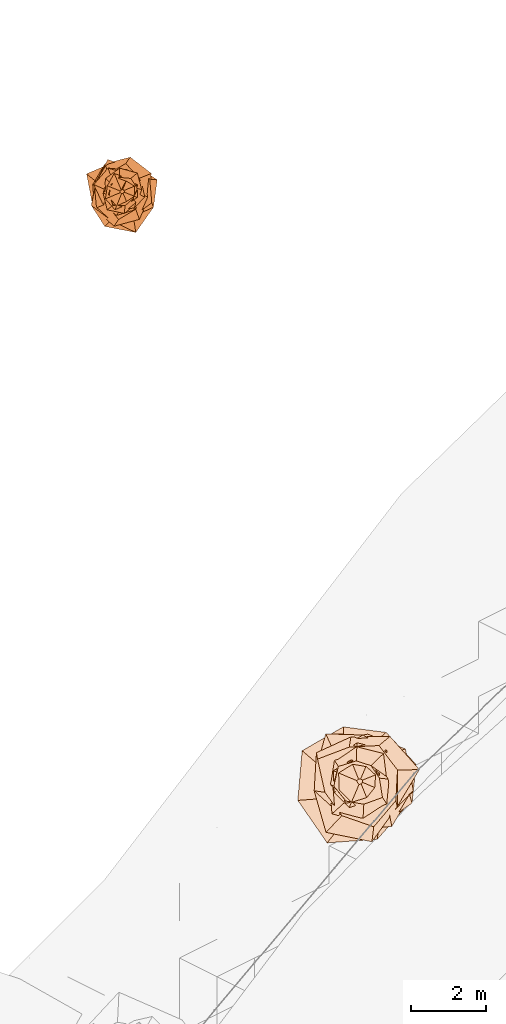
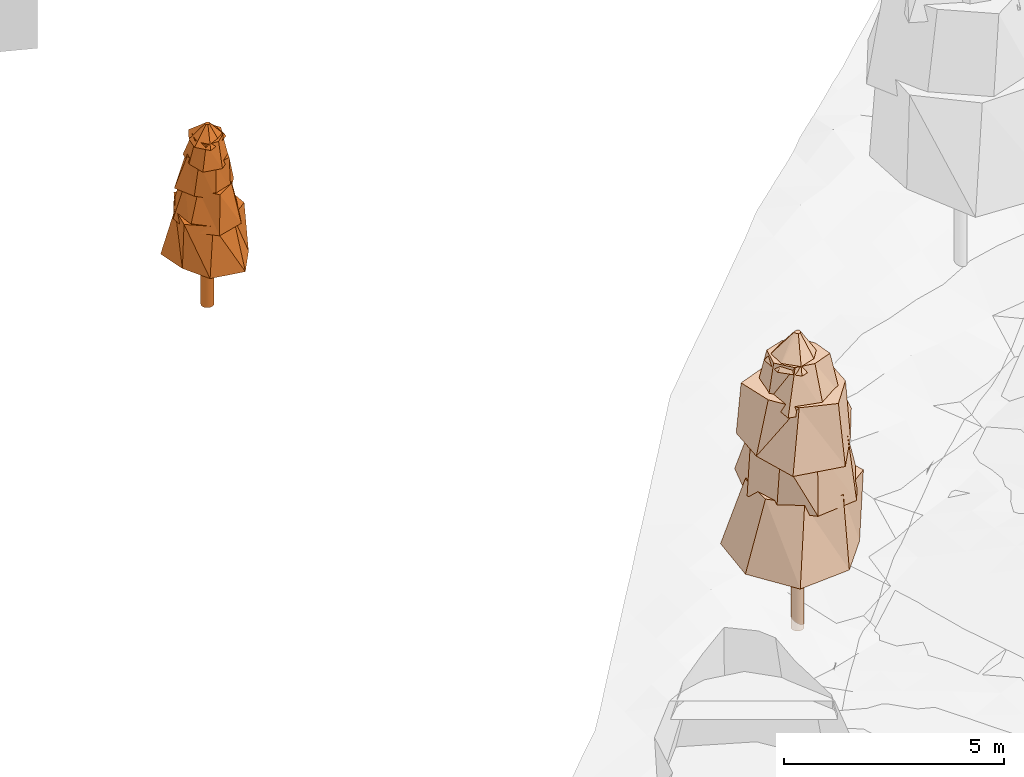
# Not in any storey, part 24 of 88: 2 geographic elements.
"""IFC4 model written with IfcOpenShell, lengths in metres."""

import ifcopenshell
import ifcopenshell.guid

model = None  # the IFC model being written
_history = None  # IfcOwnerHistory: only IFC2X3 demands one
_inside = {}  # id of a spatial element -> (the spatial element, [elements in it])
_under = {}  # id of a project, library or spatial element -> (it, [spatial elements below it])
_declared = {}  # id of a project -> (the project, [libraries it declares])
_typed = {}  # id of a type object -> (the type object, [elements of that type])
_made_of = {}  # id of a material, layer set ... -> (it, [elements and type objects made of it])


def new_model(schema):
    """Start an empty IFC model of exactly this schema.

    Asked for "IFC4X3", IfcOpenShell would pick the latest addendum, in which some entities
    have other attributes; the version numbers below select the first issue.
    IFC2X3 requires an IfcOwnerHistory on every rooted entity: one is made here for all.
    """
    global model, _history
    if schema == "IFC4X3":
        model = ifcopenshell.file(schema_version=(4, 3, 0, 0))
    else:
        model = ifcopenshell.file(schema=schema)
    _inside.clear()
    _under.clear()
    _declared.clear()
    _typed.clear()
    _made_of.clear()
    _history = None
    if model.schema == "IFC2X3":
        org = make("IfcOrganization", Name="unknown")
        user = make(
            "IfcPersonAndOrganization",
            ThePerson=make("IfcPerson", FamilyName="unknown"),
            TheOrganization=org,
        )
        app = make(
            "IfcApplication",
            ApplicationDeveloper=org,
            Version="unknown",
            ApplicationFullName="unknown",
            ApplicationIdentifier="unknown",
        )
        _history = make(
            "IfcOwnerHistory",
            OwningUser=user,
            OwningApplication=app,
            ChangeAction="ADDED",
            CreationDate=0,
        )
    return model


def make(cls, **values):
    """One entity of the class cls with the attributes given. An attribute that is None is left unset."""
    return model.create_entity(
        cls, **{name: value for name, value in values.items() if value is not None}
    )


def rooted(cls, **values):
    """An entity with a GlobalId (a new one), such as an element, a storey or a relation."""
    return make(cls, GlobalId=ifcopenshell.guid.new(), OwnerHistory=_history, **values)


def si_unit(unit_type, name, prefix=None):
    """IfcSIUnit, for example si_unit("LENGTHUNIT", "METRE", prefix="MILLI")."""
    return make("IfcSIUnit", UnitType=unit_type, Prefix=prefix, Name=name)


def assignment(units):
    """IfcUnitAssignment: the units of a project."""
    return None if units is None else make("IfcUnitAssignment", Units=units)


def point(xyz):
    """IfcCartesianPoint."""
    return None if xyz is None else make("IfcCartesianPoint", Coordinates=xyz)


def direction(xyz):
    """IfcDirection."""
    return None if xyz is None else make("IfcDirection", DirectionRatios=xyz)


def frame(location, z_axis=None, x_axis=None):
    """IfcAxis2Placement3D, a coordinate frame: its origin and axes. An axis left out is left unset."""
    return make(
        "IfcAxis2Placement3D",
        Location=point(location),
        Axis=direction(z_axis),
        RefDirection=direction(x_axis),
    )


def origin_with_axes():
    """The frame at (0, 0, 0) with the z axis (0, 0, 1) and the x axis (1, 0, 0) written out."""
    return frame((0.0, 0.0, 0.0), z_axis=(0.0, 0.0, 1.0), x_axis=(1.0, 0.0, 0.0))


def place(relative_to, where):
    """IfcLocalPlacement: puts the frame where relative to a parent placement (None: the world)."""
    return make(
        "IfcLocalPlacement", PlacementRelTo=relative_to, RelativePlacement=where
    )


def context(
    kind, dimensions, precision=None, world=None, true_north=None, identifier=None
):
    """IfcGeometricRepresentationContext, for example the 3D "Model" context."""
    return make(
        "IfcGeometricRepresentationContext",
        ContextIdentifier=identifier,
        ContextType=kind,
        CoordinateSpaceDimension=dimensions,
        Precision=precision,
        WorldCoordinateSystem=world,
        TrueNorth=true_north,
    )


def subcontext(parent, identifier, kind, view, scale=None):
    """IfcGeometricRepresentationSubContext, for example "Body" below "Model"."""
    return make(
        "IfcGeometricRepresentationSubContext",
        ContextIdentifier=identifier,
        ContextType=kind,
        ParentContext=parent,
        TargetScale=scale,
        TargetView=view,
    )


def project(units=None, contexts=None):
    """IfcProject with its units and contexts."""
    return rooted(
        "IfcProject",
        Name="project",
        RepresentationContexts=contexts,
        UnitsInContext=assignment(units),
    )


def spatial(cls, under=None, at=None, **own):
    """A site, building, storey or space (cls), placed at a placement, below another one or the project."""
    s = rooted(cls, ObjectPlacement=at, **own)
    if under is not None:
        _under.setdefault(under.id(), (under, []))[1].append(s)
    return s


def profile(cls, at=None, kind="AREA", **sizes):
    """A parametric profile (cls). Its sizes go by their IFC names, for example OverallWidth=200.0."""
    return make(cls, ProfileType=kind, Position=at, **sizes)


def circle(**sizes):
    """IfcCircleProfileDef."""
    return profile("IfcCircleProfileDef", **sizes)


def extrude(swept, where, along, depth):
    """IfcExtrudedAreaSolid: the profile swept, set in the frame where, extruded along a direction by depth."""
    return make(
        "IfcExtrudedAreaSolid",
        SweptArea=swept,
        Position=where,
        ExtrudedDirection=direction(along),
        Depth=depth,
    )


def faces_of(points, faces, orient=None, outer=None):
    """IfcFace entities. A face is a list of loops; a loop is a list of indices into points, from 0.

    orient and outer hold one flag for each loop. By default every Orientation is true, the
    first loop of a face is its IfcFaceOuterBound and the others are IfcFaceBound.
    """
    made = []
    for i, loops in enumerate(faces):
        bounds = []
        for j, loop in enumerate(loops):
            is_outer = j == 0 if outer is None else outer[i][j]
            bounds.append(
                make(
                    "IfcFaceOuterBound" if is_outer else "IfcFaceBound",
                    Bound=make("IfcPolyLoop", Polygon=[points[k] for k in loop]),
                    Orientation=True if orient is None else orient[i][j],
                )
            )
        made.append(make("IfcFace", Bounds=bounds))
    return made


def faceted_brep(points, faces, orient=None, outer=None, voids=None):
    """IfcFacetedBrep: a solid bounded by flat faces; with voids (closed shells), ...WithVoids."""
    shared = [point(p) for p in points]
    hull = make("IfcClosedShell", CfsFaces=faces_of(shared, faces, orient, outer))
    if voids is None:
        return make("IfcFacetedBrep", Outer=hull)
    return make(
        "IfcFacetedBrepWithVoids",
        Outer=hull,
        Voids=[
            make(cls, CfsFaces=faces_of(shared, fs, o, b)) for cls, fs, o, b in voids
        ],
    )


def shape(context_of_items, identifier, shape_type, items):
    """IfcShapeRepresentation: the items that make up one representation, for example the "Body"."""
    return make(
        "IfcShapeRepresentation",
        ContextOfItems=context_of_items,
        RepresentationIdentifier=identifier,
        RepresentationType=shape_type,
        Items=items,
    )


def made_of(thing, what):
    """Note that an element or type object is made of a material, layer set ...; save() writes the relation."""
    if what is not None:
        _made_of.setdefault(what.id(), (what, []))[1].append(thing)
    return thing


def element(
    cls,
    number,
    at=None,
    inside=None,
    cuts=None,
    type_object=None,
    material=None,
    context=None,
    identifier="Body",
    shape_type=None,
    held_by="IfcProductDefinitionShape",
    body=None,
    shapes=None,
    **own,
):
    """One element of the class cls, such as IfcWall. Its Tag is "e" and its number.

    at: its placement. inside: the storey or other place that contains it. cuts: it is an
    opening in that element (IfcRelVoidsElement). A single representation is given by context,
    identifier, shape_type and body (its items); several are given by shapes. held_by: the class
    of the entity that holds the representations. save() writes the other relations.
    """
    e = rooted(cls, Tag="e%d" % number, ObjectPlacement=at, **own)
    if body is not None:
        shapes = [shape(context, identifier, shape_type, body)]
    if shapes is not None:
        e.Representation = make(held_by, Representations=shapes)
    if inside is not None:
        _inside.setdefault(inside.id(), (inside, []))[1].append(e)
    if cuts is not None:
        rooted(
            "IfcRelVoidsElement", RelatingBuildingElement=cuts, RelatedOpeningElement=e
        )
    if type_object is not None:
        _typed.setdefault(type_object.id(), (type_object, []))[1].append(e)
    return made_of(e, material)


def aggregate(whole, parts):
    """IfcRelAggregates: a whole, such as a stair, and the parts it consists of."""
    return rooted("IfcRelAggregates", RelatingObject=whole, RelatedObjects=parts)


def save(model, path):
    """Write the relations noted so far, then the file.

    IfcRelAggregates (storeys below a building ...), IfcRelContainedInSpatialStructure (elements
    in a storey), IfcRelDefinesByType, IfcRelAssociatesMaterial and IfcRelDeclares: one each for
    every whole, place, type object, material and project.
    """
    for whole, parts in _under.values():
        aggregate(whole, parts)
    for where, things in _inside.values():
        rooted(
            "IfcRelContainedInSpatialStructure",
            RelatedElements=things,
            RelatingStructure=where,
        )
    for kind, things in _typed.values():
        rooted("IfcRelDefinesByType", RelatedObjects=things, RelatingType=kind)
    for what, things in _made_of.values():
        rooted("IfcRelAssociatesMaterial", RelatedObjects=things, RelatingMaterial=what)
    for by, libraries in _declared.values():
        rooted("IfcRelDeclares", RelatingContext=by, RelatedDefinitions=libraries)
    model.write(path)


model = new_model("IFC4")

# Units and contexts
model_context = context("Model", 3, precision=1e-05, world=origin_with_axes())
body_context = subcontext(model_context, "Body", "Model", "MODEL_VIEW")
ifc_project = project(units=[si_unit("LENGTHUNIT", "METRE"), si_unit("AREAUNIT", "SQUARE_METRE"), si_unit("VOLUMEUNIT", "CUBIC_METRE"), si_unit("PLANEANGLEUNIT", "RADIAN")], contexts=[model_context])

# Sites
site_1_placement = place(None, origin_with_axes())
site_1 = spatial("IfcSite", under=ifc_project, at=site_1_placement, Name="CH907857693633", CompositionType="ELEMENT")
site_2_placement = place(None, origin_with_axes())
site_2 = spatial("IfcSite", under=site_1, at=site_2_placement, Name="Vegetation", CompositionType="ELEMENT")

# Geographic element
geographic_element_1_placement = place(None, frame((48.4650000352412, 46.4950034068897, 2.69342041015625), z_axis=(0.0, 0.0, 1.0), x_axis=(1.0, 0.0, 0.0)))
element("IfcGeographicElement", 1, at=geographic_element_1_placement, inside=site_2, Name="Tree_einzelbaum", ObjectType="VEGETATION", PredefinedType="USERDEFINED", context=body_context, shape_type="Brep", body=[
    extrude(circle(Radius=0.15), origin_with_axes(), (0.0, 0.0, 1.0), 1.42901684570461),
    faceted_brep([(0.83896451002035, -0.418565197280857, 1.42901684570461), (0.36579233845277, -1.09418526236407, 1.42901684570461), (-0.465147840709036, -0.932333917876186, 1.42901684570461), (-0.809774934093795, -0.270712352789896, 1.42901684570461), (-0.951089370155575, 0.47450506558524, 1.42901684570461), (-0.257466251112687, 0.770152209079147, 1.42901684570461), (0.351931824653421, 0.705405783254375, 1.42901684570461), (0.938187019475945, 0.31364124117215, 1.42901684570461), (0.738922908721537, 0.332312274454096, 2.71586553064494), (0.242046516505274, 0.637683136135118, 2.71586553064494), (-0.385638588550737, 0.857498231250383, 2.71586553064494), (-0.694905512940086, 0.263766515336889, 2.71586553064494), (-0.824269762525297, -0.370694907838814, 2.71586553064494), (-0.292457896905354, -0.77049433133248, 2.71586553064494), (0.297418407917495, -0.661333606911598, 2.71586553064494), (0.792374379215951, -0.300762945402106, 2.71586553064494), (0.938187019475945, 0.31364124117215, 1.42901684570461), (0.351931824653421, 0.705405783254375, 1.42901684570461), (0.242046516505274, 0.637683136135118, 2.71586553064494), (0.738922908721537, 0.332312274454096, 2.71586553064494), (0.351931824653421, 0.705405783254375, 1.42901684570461), (-0.257466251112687, 0.770152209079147, 1.42901684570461), (-0.385638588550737, 0.857498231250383, 2.71586553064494), (0.242046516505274, 0.637683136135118, 2.71586553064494), (-0.257466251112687, 0.770152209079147, 1.42901684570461), (-0.951089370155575, 0.47450506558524, 1.42901684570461), (-0.694905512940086, 0.263766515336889, 2.71586553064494), (-0.385638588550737, 0.857498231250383, 2.71586553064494), (-0.951089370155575, 0.47450506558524, 1.42901684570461), (-0.809774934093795, -0.270712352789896, 1.42901684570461), (-0.824269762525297, -0.370694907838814, 2.71586553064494), (-0.694905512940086, 0.263766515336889, 2.71586553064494), (-0.809774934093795, -0.270712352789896, 1.42901684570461), (-0.465147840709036, -0.932333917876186, 1.42901684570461), (-0.292457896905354, -0.77049433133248, 2.71586553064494), (-0.824269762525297, -0.370694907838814, 2.71586553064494), (-0.465147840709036, -0.932333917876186, 1.42901684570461), (0.36579233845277, -1.09418526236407, 1.42901684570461), (0.297418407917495, -0.661333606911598, 2.71586553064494), (-0.292457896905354, -0.77049433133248, 2.71586553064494), (0.36579233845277, -1.09418526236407, 1.42901684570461), (0.83896451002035, -0.418565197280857, 1.42901684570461), (0.792374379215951, -0.300762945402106, 2.71586553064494), (0.297418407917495, -0.661333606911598, 2.71586553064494), (0.83896451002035, -0.418565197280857, 1.42901684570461), (0.938187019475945, 0.31364124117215, 1.42901684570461), (0.738922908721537, 0.332312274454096, 2.71586553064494), (0.792374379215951, -0.300762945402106, 2.71586553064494)], [[[0, 1, 2, 3, 4, 5, 6, 7]], [[8, 9, 10, 11, 12, 13, 14, 15]], [[16, 17, 18, 19]], [[20, 21, 22, 23]], [[24, 25, 26, 27]], [[28, 29, 30, 31]], [[32, 33, 34, 35]], [[36, 37, 38, 39]], [[40, 41, 42, 43]], [[44, 45, 46, 47]]]),
    faceted_brep([(0.7189050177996, -0.167786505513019, 2.52283822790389), (0.461671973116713, -0.742781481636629, 2.52283822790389), (-0.216322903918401, -0.926866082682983, 2.52283822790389), (-0.73332750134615, -0.455795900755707, 2.52283822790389), (-0.78744477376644, 0.183783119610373, 2.52283822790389), (-0.461997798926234, 0.74330570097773, 2.52283822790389), (0.214901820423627, 0.920777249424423, 2.52283822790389), (0.781042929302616, 0.485453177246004, 2.52283822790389), (0.462896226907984, 0.356380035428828, 3.50669761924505), (0.0973318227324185, 0.748634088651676, 3.50669761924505), (-0.369800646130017, 0.480328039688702, 3.50669761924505), (-0.539303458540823, 0.0701162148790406, 3.50669761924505), (-0.420712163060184, -0.323902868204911, 3.50669761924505), (-0.0970898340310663, -0.746772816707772, 3.50669761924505), (0.36253718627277, -0.470893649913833, 3.50669761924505), (0.536298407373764, -0.0697255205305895, 3.50669761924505), (0.781042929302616, 0.485453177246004, 2.52283822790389), (0.214901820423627, 0.920777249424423, 2.52283822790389), (0.0973318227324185, 0.748634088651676, 3.50669761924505), (0.462896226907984, 0.356380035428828, 3.50669761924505), (0.214901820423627, 0.920777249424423, 2.52283822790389), (-0.461997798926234, 0.74330570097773, 2.52283822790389), (-0.369800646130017, 0.480328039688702, 3.50669761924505), (0.0973318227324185, 0.748634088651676, 3.50669761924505), (-0.461997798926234, 0.74330570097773, 2.52283822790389), (-0.78744477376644, 0.183783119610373, 2.52283822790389), (-0.539303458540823, 0.0701162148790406, 3.50669761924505), (-0.369800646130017, 0.480328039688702, 3.50669761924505), (-0.78744477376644, 0.183783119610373, 2.52283822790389), (-0.73332750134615, -0.455795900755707, 2.52283822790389), (-0.420712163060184, -0.323902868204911, 3.50669761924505), (-0.539303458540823, 0.0701162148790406, 3.50669761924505), (-0.73332750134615, -0.455795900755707, 2.52283822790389), (-0.216322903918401, -0.926866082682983, 2.52283822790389), (-0.0970898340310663, -0.746772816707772, 3.50669761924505), (-0.420712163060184, -0.323902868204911, 3.50669761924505), (-0.216322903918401, -0.926866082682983, 2.52283822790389), (0.461671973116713, -0.742781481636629, 2.52283822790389), (0.36253718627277, -0.470893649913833, 3.50669761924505), (-0.0970898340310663, -0.746772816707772, 3.50669761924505), (0.461671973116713, -0.742781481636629, 2.52283822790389), (0.7189050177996, -0.167786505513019, 2.52283822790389), (0.536298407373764, -0.0697255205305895, 3.50669761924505), (0.36253718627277, -0.470893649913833, 3.50669761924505), (0.7189050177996, -0.167786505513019, 2.52283822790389), (0.781042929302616, 0.485453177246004, 2.52283822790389), (0.462896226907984, 0.356380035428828, 3.50669761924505), (0.536298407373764, -0.0697255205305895, 3.50669761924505)], [[[0, 1, 2, 3, 4, 5, 6, 7]], [[8, 9, 10, 11, 12, 13, 14, 15]], [[16, 17, 18, 19]], [[20, 21, 22, 23]], [[24, 25, 26, 27]], [[28, 29, 30, 31]], [[32, 33, 34, 35]], [[36, 37, 38, 39]], [[40, 41, 42, 43]], [[44, 45, 46, 47]]]),
    faceted_brep([(0.605950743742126, -0.149294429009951, 3.35911871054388), (0.312117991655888, -0.516199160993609, 3.35911871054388), (-0.163506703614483, -0.66363500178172, 3.35911871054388), (-0.523640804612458, -0.316617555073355, 3.35911871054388), (-0.758775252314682, 0.186947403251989, 3.35911871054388), (-0.378463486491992, 0.625925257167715, 3.35911871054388), (0.148450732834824, 0.602526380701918, 3.35911871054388), (0.504838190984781, 0.305248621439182, 3.35911871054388), (0.372006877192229, 0.279195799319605, 4.21089687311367), (0.0713229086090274, 0.500432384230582, 4.21089687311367), (-0.287282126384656, 0.382781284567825, 4.21089687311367), (-0.489290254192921, 0.0697349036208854, 4.21089687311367), (-0.383257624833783, -0.287639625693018, 4.21089687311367), (-0.0736925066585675, -0.517058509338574, 4.21089687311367), (0.324830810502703, -0.432812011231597, 4.21089687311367), (0.444584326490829, -0.0633632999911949, 4.21089687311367), (0.504838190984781, 0.305248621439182, 3.35911871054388), (0.148450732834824, 0.602526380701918, 3.35911871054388), (0.0713229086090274, 0.500432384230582, 4.21089687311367), (0.372006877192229, 0.279195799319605, 4.21089687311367), (0.148450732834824, 0.602526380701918, 3.35911871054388), (-0.378463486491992, 0.625925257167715, 3.35911871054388), (-0.287282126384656, 0.382781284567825, 4.21089687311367), (0.0713229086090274, 0.500432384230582, 4.21089687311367), (-0.378463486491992, 0.625925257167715, 3.35911871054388), (-0.758775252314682, 0.186947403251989, 3.35911871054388), (-0.489290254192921, 0.0697349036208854, 4.21089687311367), (-0.287282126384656, 0.382781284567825, 4.21089687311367), (-0.758775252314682, 0.186947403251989, 3.35911871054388), (-0.523640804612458, -0.316617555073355, 3.35911871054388), (-0.383257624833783, -0.287639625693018, 4.21089687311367), (-0.489290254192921, 0.0697349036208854, 4.21089687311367), (-0.523640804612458, -0.316617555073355, 3.35911871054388), (-0.163506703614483, -0.66363500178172, 3.35911871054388), (-0.0736925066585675, -0.517058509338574, 4.21089687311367), (-0.383257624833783, -0.287639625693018, 4.21089687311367), (-0.163506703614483, -0.66363500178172, 3.35911871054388), (0.312117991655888, -0.516199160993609, 3.35911871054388), (0.324830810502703, -0.432812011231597, 4.21089687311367), (-0.0736925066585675, -0.517058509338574, 4.21089687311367), (0.312117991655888, -0.516199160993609, 3.35911871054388), (0.605950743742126, -0.149294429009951, 3.35911871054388), (0.444584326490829, -0.0633632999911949, 4.21089687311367), (0.324830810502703, -0.432812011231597, 4.21089687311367), (0.605950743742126, -0.149294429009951, 3.35911871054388), (0.504838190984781, 0.305248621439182, 3.35911871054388), (0.372006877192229, 0.279195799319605, 4.21089687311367), (0.444584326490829, -0.0633632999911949, 4.21089687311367)], [[[0, 1, 2, 3, 4, 5, 6, 7]], [[8, 9, 10, 11, 12, 13, 14, 15]], [[16, 17, 18, 19]], [[20, 21, 22, 23]], [[24, 25, 26, 27]], [[28, 29, 30, 31]], [[32, 33, 34, 35]], [[36, 37, 38, 39]], [[40, 41, 42, 43]], [[44, 45, 46, 47]]]),
    faceted_brep([(0.390402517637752, -0.318808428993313, 4.08313014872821), (0.0590084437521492, -0.584537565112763, 4.08313014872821), (-0.399170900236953, -0.488811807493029, 4.08313014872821), (-0.507277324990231, -0.0512091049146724, 4.08313014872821), (-0.436000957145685, 0.356044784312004, 4.08313014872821), (-0.0632550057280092, 0.626604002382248, 4.08313014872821), (0.405145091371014, 0.496127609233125, 4.08313014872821), (0.523918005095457, 0.0528889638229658, 4.08313014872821), (0.405282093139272, 0.0824113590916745, 4.70414913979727), (0.233482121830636, 0.352672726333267, 4.70414913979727), (-0.0770369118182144, 0.378851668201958, 4.70414913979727), (-0.287506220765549, 0.190339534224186, 4.70414913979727), (-0.359306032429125, -0.073062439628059, 4.70414913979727), (-0.237587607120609, -0.358874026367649, 4.70414913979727), (0.0769252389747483, -0.378302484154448, 4.70414913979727), (0.289214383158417, -0.191470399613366, 4.70414913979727), (0.523918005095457, 0.0528889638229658, 4.08313014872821), (0.405145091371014, 0.496127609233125, 4.08313014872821), (0.233482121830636, 0.352672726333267, 4.70414913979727), (0.405282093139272, 0.0824113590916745, 4.70414913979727), (0.405145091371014, 0.496127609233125, 4.08313014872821), (-0.0632550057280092, 0.626604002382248, 4.08313014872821), (-0.0770369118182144, 0.378851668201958, 4.70414913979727), (0.233482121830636, 0.352672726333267, 4.70414913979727), (-0.0632550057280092, 0.626604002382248, 4.08313014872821), (-0.436000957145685, 0.356044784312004, 4.08313014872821), (-0.287506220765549, 0.190339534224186, 4.70414913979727), (-0.0770369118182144, 0.378851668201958, 4.70414913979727), (-0.436000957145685, 0.356044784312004, 4.08313014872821), (-0.507277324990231, -0.0512091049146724, 4.08313014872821), (-0.359306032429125, -0.073062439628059, 4.70414913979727), (-0.287506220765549, 0.190339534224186, 4.70414913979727), (-0.507277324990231, -0.0512091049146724, 4.08313014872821), (-0.399170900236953, -0.488811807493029, 4.08313014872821), (-0.237587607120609, -0.358874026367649, 4.70414913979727), (-0.359306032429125, -0.073062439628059, 4.70414913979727), (-0.399170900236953, -0.488811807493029, 4.08313014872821), (0.0590084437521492, -0.584537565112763, 4.08313014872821), (0.0769252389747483, -0.378302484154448, 4.70414913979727), (-0.237587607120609, -0.358874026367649, 4.70414913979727), (0.0590084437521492, -0.584537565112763, 4.08313014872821), (0.390402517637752, -0.318808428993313, 4.08313014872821), (0.289214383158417, -0.191470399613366, 4.70414913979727), (0.0769252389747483, -0.378302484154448, 4.70414913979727), (0.390402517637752, -0.318808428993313, 4.08313014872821), (0.523918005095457, 0.0528889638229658, 4.08313014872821), (0.405282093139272, 0.0824113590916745, 4.70414913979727), (0.289214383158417, -0.191470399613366, 4.70414913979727)], [[[0, 1, 2, 3, 4, 5, 6, 7]], [[8, 9, 10, 11, 12, 13, 14, 15]], [[16, 17, 18, 19]], [[20, 21, 22, 23]], [[24, 25, 26, 27]], [[28, 29, 30, 31]], [[32, 33, 34, 35]], [[36, 37, 38, 39]], [[40, 41, 42, 43]], [[44, 45, 46, 47]]]),
    faceted_brep([(0.404824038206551, -0.158693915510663, 4.61099629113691), (0.146545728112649, -0.335518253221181, 4.61099629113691), (-0.190776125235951, -0.486664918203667, 4.61099629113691), (-0.446735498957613, -0.195122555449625, 4.61099629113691), (-0.395079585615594, 0.154874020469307, 4.61099629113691), (-0.212723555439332, 0.487033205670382, 4.61099629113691), (0.138599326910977, 0.353563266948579, 4.61099629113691), (0.413136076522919, 0.180447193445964, 4.61099629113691), (0.0551097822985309, 0.030956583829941, 5.00358529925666), (0.0161555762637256, 0.0575680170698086, 5.00358529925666), (-0.0244579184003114, 0.0435406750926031, 5.00358529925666), (-0.051869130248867, 0.0145562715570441, 5.00358529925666), (-0.0503534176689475, -0.028284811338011, 5.00358529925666), (-0.0160580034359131, -0.0572203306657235, 5.00358529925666), (0.0257438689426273, -0.0458299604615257, 5.00358529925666), (0.0590614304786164, -0.016574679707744, 5.00358529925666), (0.413136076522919, 0.180447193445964, 4.61099629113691), (0.138599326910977, 0.353563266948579, 4.61099629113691), (0.0161555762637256, 0.0575680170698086, 5.00358529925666), (0.0551097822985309, 0.030956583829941, 5.00358529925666), (0.138599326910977, 0.353563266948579, 4.61099629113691), (-0.212723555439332, 0.487033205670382, 4.61099629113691), (-0.0244579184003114, 0.0435406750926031, 5.00358529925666), (0.0161555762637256, 0.0575680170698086, 5.00358529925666), (-0.212723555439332, 0.487033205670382, 4.61099629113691), (-0.395079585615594, 0.154874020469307, 4.61099629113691), (-0.051869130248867, 0.0145562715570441, 5.00358529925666), (-0.0244579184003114, 0.0435406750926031, 5.00358529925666), (-0.395079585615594, 0.154874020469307, 4.61099629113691), (-0.446735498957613, -0.195122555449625, 4.61099629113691), (-0.0503534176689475, -0.028284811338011, 5.00358529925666), (-0.051869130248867, 0.0145562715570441, 5.00358529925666), (-0.446735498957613, -0.195122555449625, 4.61099629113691), (-0.190776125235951, -0.486664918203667, 4.61099629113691), (-0.0160580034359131, -0.0572203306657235, 5.00358529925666), (-0.0503534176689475, -0.028284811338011, 5.00358529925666), (-0.190776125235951, -0.486664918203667, 4.61099629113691), (0.146545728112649, -0.335518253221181, 4.61099629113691), (0.0257438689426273, -0.0458299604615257, 5.00358529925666), (-0.0160580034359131, -0.0572203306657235, 5.00358529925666), (0.146545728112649, -0.335518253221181, 4.61099629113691), (0.404824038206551, -0.158693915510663, 4.61099629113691), (0.0590614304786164, -0.016574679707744, 5.00358529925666), (0.0257438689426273, -0.0458299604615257, 5.00358529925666), (0.404824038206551, -0.158693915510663, 4.61099629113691), (0.413136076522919, 0.180447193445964, 4.61099629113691), (0.0551097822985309, 0.030956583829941, 5.00358529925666), (0.0590614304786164, -0.016574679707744, 5.00358529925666)], [[[0, 1, 2, 3, 4, 5, 6, 7]], [[8, 9, 10, 11, 12, 13, 14, 15]], [[16, 17, 18, 19]], [[20, 21, 22, 23]], [[24, 25, 26, 27]], [[28, 29, 30, 31]], [[32, 33, 34, 35]], [[36, 37, 38, 39]], [[40, 41, 42, 43]], [[44, 45, 46, 47]]]),
])

# Site
site_3_placement = place(None, origin_with_axes())
site_3 = spatial("IfcSite", under=site_1, at=site_3_placement, Name="Simulated_forest", CompositionType="ELEMENT")

# Geographic element
geographic_element_2_placement = place(None, frame((54.8214926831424, 30.7191049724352, 1.0780029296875), z_axis=(0.0, 0.0, 1.0), x_axis=(1.0, 0.0, 0.0)))
element("IfcGeographicElement", 2, at=geographic_element_2_placement, inside=site_3, Name="Tree_SIMULATED_WOODED_AREA", ObjectType="VEGETATION", PredefinedType="USERDEFINED", context=body_context, shape_type="Brep", body=[
    extrude(circle(Radius=0.15), origin_with_axes(), (0.0, 0.0, 1.0), 2.35750108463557),
    faceted_brep([(1.24178216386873, -0.662616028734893, 2.35750108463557), (0.46853059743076, -1.54060945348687, 2.35750108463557), (-0.874436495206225, -1.63874641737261, 2.35750108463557), (-1.6585850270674, -0.504409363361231, 2.35750108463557), (-1.5432480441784, 0.823478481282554, 2.35750108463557), (-0.444597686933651, 1.46191391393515, 2.35750108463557), (0.701514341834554, 1.31467993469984, 2.35750108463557), (1.50550301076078, 0.457854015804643, 2.35750108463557), (1.0956956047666, 0.457107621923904, 4.22068158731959), (0.450377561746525, 1.09514702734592, 4.22068158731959), (-0.432979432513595, 1.03785987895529, 4.22068158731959), (-1.10947004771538, 0.456267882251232, 4.22068158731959), (-1.10708554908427, -0.461859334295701, 4.22068158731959), (-0.455311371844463, -1.10714417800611, 4.22068158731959), (0.501092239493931, -1.20112756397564, 4.22068158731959), (1.39470302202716, -0.57356951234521, 4.22068158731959), (1.50550301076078, 0.457854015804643, 2.35750108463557), (0.701514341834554, 1.31467993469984, 2.35750108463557), (0.450377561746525, 1.09514702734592, 4.22068158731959), (1.0956956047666, 0.457107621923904, 4.22068158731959), (0.701514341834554, 1.31467993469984, 2.35750108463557), (-0.444597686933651, 1.46191391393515, 2.35750108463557), (-0.432979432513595, 1.03785987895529, 4.22068158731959), (0.450377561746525, 1.09514702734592, 4.22068158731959), (-0.444597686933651, 1.46191391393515, 2.35750108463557), (-1.5432480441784, 0.823478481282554, 2.35750108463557), (-1.10947004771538, 0.456267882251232, 4.22068158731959), (-0.432979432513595, 1.03785987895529, 4.22068158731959), (-1.5432480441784, 0.823478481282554, 2.35750108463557), (-1.6585850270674, -0.504409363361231, 2.35750108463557), (-1.10708554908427, -0.461859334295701, 4.22068158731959), (-1.10947004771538, 0.456267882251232, 4.22068158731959), (-1.6585850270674, -0.504409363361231, 2.35750108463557), (-0.874436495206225, -1.63874641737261, 2.35750108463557), (-0.455311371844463, -1.10714417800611, 4.22068158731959), (-1.10708554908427, -0.461859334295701, 4.22068158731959), (-0.874436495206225, -1.63874641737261, 2.35750108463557), (0.46853059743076, -1.54060945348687, 2.35750108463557), (0.501092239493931, -1.20112756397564, 4.22068158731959), (-0.455311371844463, -1.10714417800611, 4.22068158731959), (0.46853059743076, -1.54060945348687, 2.35750108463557), (1.24178216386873, -0.662616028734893, 2.35750108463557), (1.39470302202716, -0.57356951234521, 4.22068158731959), (0.501092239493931, -1.20112756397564, 4.22068158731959), (1.24178216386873, -0.662616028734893, 2.35750108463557), (1.50550301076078, 0.457854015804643, 2.35750108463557), (1.0956956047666, 0.457107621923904, 4.22068158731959), (1.39470302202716, -0.57356951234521, 4.22068158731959)], [[[0, 1, 2, 3, 4, 5, 6, 7]], [[8, 9, 10, 11, 12, 13, 14, 15]], [[16, 17, 18, 19]], [[20, 21, 22, 23]], [[24, 25, 26, 27]], [[28, 29, 30, 31]], [[32, 33, 34, 35]], [[36, 37, 38, 39]], [[40, 41, 42, 43]], [[44, 45, 46, 47]]]),
    faceted_brep([(1.42879714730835, -0.238174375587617, 3.94120451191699), (0.855809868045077, -1.19820543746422, 3.94120451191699), (-0.217744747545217, -1.30624074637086, 3.94120451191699), (-0.93566145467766, -0.668289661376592, 3.94120451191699), (-1.20565451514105, 0.200977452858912, 3.94120451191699), (-0.911616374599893, 1.27633921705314, 3.94120451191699), (0.21160125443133, 1.26938621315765, 3.94120451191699), (1.21912871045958, 0.870754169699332, 3.94120451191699), (0.884826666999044, 0.776399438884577, 5.55986677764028), (0.0812205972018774, 1.24439016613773, 5.55986677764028), (-0.686845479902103, 0.782766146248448, 5.55986677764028), (-1.18545883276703, 0.0773741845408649, 5.55986677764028), (-0.906814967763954, -0.795693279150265, 5.55986677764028), (-0.0668465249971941, -1.02416334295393, 5.55986677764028), (0.794752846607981, -0.905743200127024, 5.55986677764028), (0.84100951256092, -0.0548921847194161, 5.55986677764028), (1.21912871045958, 0.870754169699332, 3.94120451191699), (0.21160125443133, 1.26938621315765, 3.94120451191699), (0.0812205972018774, 1.24439016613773, 5.55986677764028), (0.884826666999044, 0.776399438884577, 5.55986677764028), (0.21160125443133, 1.26938621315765, 3.94120451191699), (-0.911616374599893, 1.27633921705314, 3.94120451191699), (-0.686845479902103, 0.782766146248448, 5.55986677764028), (0.0812205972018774, 1.24439016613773, 5.55986677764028), (-0.911616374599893, 1.27633921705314, 3.94120451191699), (-1.20565451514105, 0.200977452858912, 3.94120451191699), (-1.18545883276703, 0.0773741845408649, 5.55986677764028), (-0.686845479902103, 0.782766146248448, 5.55986677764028), (-1.20565451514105, 0.200977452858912, 3.94120451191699), (-0.93566145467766, -0.668289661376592, 3.94120451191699), (-0.906814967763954, -0.795693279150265, 5.55986677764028), (-1.18545883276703, 0.0773741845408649, 5.55986677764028), (-0.93566145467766, -0.668289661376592, 3.94120451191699), (-0.217744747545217, -1.30624074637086, 3.94120451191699), (-0.0668465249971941, -1.02416334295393, 5.55986677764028), (-0.906814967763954, -0.795693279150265, 5.55986677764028), (-0.217744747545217, -1.30624074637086, 3.94120451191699), (0.855809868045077, -1.19820543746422, 3.94120451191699), (0.794752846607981, -0.905743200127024, 5.55986677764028), (-0.0668465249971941, -1.02416334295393, 5.55986677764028), (0.855809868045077, -1.19820543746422, 3.94120451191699), (1.42879714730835, -0.238174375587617, 3.94120451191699), (0.84100951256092, -0.0548921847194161, 5.55986677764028), (0.794752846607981, -0.905743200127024, 5.55986677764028), (1.42879714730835, -0.238174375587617, 3.94120451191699), (1.21912871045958, 0.870754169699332, 3.94120451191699), (0.884826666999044, 0.776399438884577, 5.55986677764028), (0.84100951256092, -0.0548921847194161, 5.55986677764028)], [[[0, 1, 2, 3, 4, 5, 6, 7]], [[8, 9, 10, 11, 12, 13, 14, 15]], [[16, 17, 18, 19]], [[20, 21, 22, 23]], [[24, 25, 26, 27]], [[28, 29, 30, 31]], [[32, 33, 34, 35]], [[36, 37, 38, 39]], [[40, 41, 42, 43]], [[44, 45, 46, 47]]]),
    faceted_brep([(1.00137091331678, -0.666474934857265, 5.31706743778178), (0.322957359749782, -1.60838924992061, 5.31706743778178), (-0.90441934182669, -1.35887964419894, 5.31706743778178), (-1.22175417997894, -0.245322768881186, 5.31706743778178), (-1.1609660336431, 0.772695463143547, 5.31706743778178), (-0.239722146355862, 1.19386201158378, 5.31706743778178), (0.804222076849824, 1.20833440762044, 5.31706743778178), (1.59227503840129, 0.3197216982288, 5.31706743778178), (1.00601874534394, 0.309171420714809, 6.80204738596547), (0.510550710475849, 0.963584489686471, 6.80204738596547), (-0.283520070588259, 0.922551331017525, 6.80204738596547), (-1.13233438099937, 0.599962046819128, 6.80204738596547), (-0.935150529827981, -0.287392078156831, 6.80204738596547), (-0.48308149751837, -0.911740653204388, 6.80204738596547), (0.371678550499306, -1.20941187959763, 6.80204738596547), (0.961729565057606, -0.509567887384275, 6.80204738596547), (1.59227503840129, 0.3197216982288, 5.31706743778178), (0.804222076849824, 1.20833440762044, 5.31706743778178), (0.510550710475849, 0.963584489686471, 6.80204738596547), (1.00601874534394, 0.309171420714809, 6.80204738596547), (0.804222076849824, 1.20833440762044, 5.31706743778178), (-0.239722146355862, 1.19386201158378, 5.31706743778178), (-0.283520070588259, 0.922551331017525, 6.80204738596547), (0.510550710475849, 0.963584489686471, 6.80204738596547), (-0.239722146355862, 1.19386201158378, 5.31706743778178), (-1.1609660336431, 0.772695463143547, 5.31706743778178), (-1.13233438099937, 0.599962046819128, 6.80204738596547), (-0.283520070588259, 0.922551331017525, 6.80204738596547), (-1.1609660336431, 0.772695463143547, 5.31706743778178), (-1.22175417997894, -0.245322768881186, 5.31706743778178), (-0.935150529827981, -0.287392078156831, 6.80204738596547), (-1.13233438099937, 0.599962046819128, 6.80204738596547), (-1.22175417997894, -0.245322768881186, 5.31706743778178), (-0.90441934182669, -1.35887964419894, 5.31706743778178), (-0.48308149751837, -0.911740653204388, 6.80204738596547), (-0.935150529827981, -0.287392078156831, 6.80204738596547), (-0.90441934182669, -1.35887964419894, 5.31706743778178), (0.322957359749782, -1.60838924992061, 5.31706743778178), (0.371678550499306, -1.20941187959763, 6.80204738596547), (-0.48308149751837, -0.911740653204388, 6.80204738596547), (0.322957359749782, -1.60838924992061, 5.31706743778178), (1.00137091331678, -0.666474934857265, 5.31706743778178), (0.961729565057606, -0.509567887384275, 6.80204738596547), (0.371678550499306, -1.20941187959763, 6.80204738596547), (1.00137091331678, -0.666474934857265, 5.31706743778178), (1.59227503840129, 0.3197216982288, 5.31706743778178), (1.00601874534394, 0.309171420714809, 6.80204738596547), (0.961729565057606, -0.509567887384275, 6.80204738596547)], [[[0, 1, 2, 3, 4, 5, 6, 7]], [[8, 9, 10, 11, 12, 13, 14, 15]], [[16, 17, 18, 19]], [[20, 21, 22, 23]], [[24, 25, 26, 27]], [[28, 29, 30, 31]], [[32, 33, 34, 35]], [[36, 37, 38, 39]], [[40, 41, 42, 43]], [[44, 45, 46, 47]]]),
    faceted_brep([(0.748924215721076, -0.646470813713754, 6.57930039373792), (0.0794716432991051, -1.08238803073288, 6.57930039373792), (-0.74555987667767, -0.863717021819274, 6.57930039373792), (-0.812725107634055, -0.0596723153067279, 6.57930039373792), (-0.707069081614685, 0.610341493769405, 6.57930039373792), (-0.0761381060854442, 1.0369859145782, 6.57930039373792), (0.721674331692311, 0.836046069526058, 6.57930039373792), (0.818462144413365, 0.0600935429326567, 6.57930039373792), (0.522312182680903, 0.0914290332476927, 7.63630813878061), (0.299247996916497, 0.426242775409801, 7.63630813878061), (-0.0966171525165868, 0.551950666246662, 7.63630813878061), (-0.574723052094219, 0.403490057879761, 7.63630813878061), (-0.696292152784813, -0.121883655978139, 7.63630813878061), (-0.366597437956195, -0.522173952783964, 7.63630813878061), (0.106180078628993, -0.606581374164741, 7.63630813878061), (0.6046966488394, -0.424533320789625, 7.63630813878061), (0.818462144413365, 0.0600935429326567, 6.57930039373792), (0.721674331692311, 0.836046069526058, 6.57930039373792), (0.299247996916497, 0.426242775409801, 7.63630813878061), (0.522312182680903, 0.0914290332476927, 7.63630813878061), (0.721674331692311, 0.836046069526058, 6.57930039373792), (-0.0761381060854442, 1.0369859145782, 6.57930039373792), (-0.0966171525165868, 0.551950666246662, 7.63630813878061), (0.299247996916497, 0.426242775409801, 7.63630813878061), (-0.0761381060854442, 1.0369859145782, 6.57930039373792), (-0.707069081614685, 0.610341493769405, 6.57930039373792), (-0.574723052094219, 0.403490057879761, 7.63630813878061), (-0.0966171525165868, 0.551950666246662, 7.63630813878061), (-0.707069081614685, 0.610341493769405, 6.57930039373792), (-0.812725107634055, -0.0596723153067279, 6.57930039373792), (-0.696292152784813, -0.121883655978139, 7.63630813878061), (-0.574723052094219, 0.403490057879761, 7.63630813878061), (-0.812725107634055, -0.0596723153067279, 6.57930039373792), (-0.74555987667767, -0.863717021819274, 6.57930039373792), (-0.366597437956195, -0.522173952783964, 7.63630813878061), (-0.696292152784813, -0.121883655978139, 7.63630813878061), (-0.74555987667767, -0.863717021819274, 6.57930039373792), (0.0794716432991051, -1.08238803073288, 6.57930039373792), (0.106180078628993, -0.606581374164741, 7.63630813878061), (-0.366597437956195, -0.522173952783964, 7.63630813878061), (0.0794716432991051, -1.08238803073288, 6.57930039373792), (0.748924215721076, -0.646470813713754, 6.57930039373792), (0.6046966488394, -0.424533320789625, 7.63630813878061), (0.106180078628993, -0.606581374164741, 7.63630813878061), (0.748924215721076, -0.646470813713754, 6.57930039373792), (0.818462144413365, 0.0600935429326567, 6.57930039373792), (0.522312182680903, 0.0914290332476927, 7.63630813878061), (0.6046966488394, -0.424533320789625, 7.63630813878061)], [[[0, 1, 2, 3, 4, 5, 6, 7]], [[8, 9, 10, 11, 12, 13, 14, 15]], [[16, 17, 18, 19]], [[20, 21, 22, 23]], [[24, 25, 26, 27]], [[28, 29, 30, 31]], [[32, 33, 34, 35]], [[36, 37, 38, 39]], [[40, 41, 42, 43]], [[44, 45, 46, 47]]]),
    faceted_brep([(0.493046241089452, -0.202107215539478, 7.4777569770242), (0.224208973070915, -0.53571239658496, 7.4777569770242), (-0.285599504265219, -0.696728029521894, 7.4777569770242), (-0.686849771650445, -0.287463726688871, 7.4777569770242), (-0.707988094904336, 0.290215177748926, 7.4777569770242), (-0.242049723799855, 0.578340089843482, 7.4777569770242), (0.205898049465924, 0.502294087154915, 7.4777569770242), (0.522767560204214, 0.218791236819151, 7.4777569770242), (0.0700332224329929, 0.0379301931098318, 8.18194191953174), (0.0205456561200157, 0.0690956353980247, 8.18194191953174), (-0.0349226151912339, 0.0644801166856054, 8.18194191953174), (-0.0855017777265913, 0.0254240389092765, 8.18194191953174), (-0.0590292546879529, -0.0319704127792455, 8.18194191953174), (-0.0229231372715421, -0.077091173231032, 8.18194191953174), (0.0360176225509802, -0.0665019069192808, 8.18194191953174), (0.0717874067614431, -0.0213460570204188, 8.18194191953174), (0.522767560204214, 0.218791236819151, 7.4777569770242), (0.205898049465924, 0.502294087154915, 7.4777569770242), (0.0205456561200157, 0.0690956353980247, 8.18194191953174), (0.0700332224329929, 0.0379301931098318, 8.18194191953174), (0.205898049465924, 0.502294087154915, 7.4777569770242), (-0.242049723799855, 0.578340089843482, 7.4777569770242), (-0.0349226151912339, 0.0644801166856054, 8.18194191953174), (0.0205456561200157, 0.0690956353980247, 8.18194191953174), (-0.242049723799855, 0.578340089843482, 7.4777569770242), (-0.707988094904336, 0.290215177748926, 7.4777569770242), (-0.0855017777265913, 0.0254240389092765, 8.18194191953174), (-0.0349226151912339, 0.0644801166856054, 8.18194191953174), (-0.707988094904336, 0.290215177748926, 7.4777569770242), (-0.686849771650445, -0.287463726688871, 7.4777569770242), (-0.0590292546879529, -0.0319704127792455, 8.18194191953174), (-0.0855017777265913, 0.0254240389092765, 8.18194191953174), (-0.686849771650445, -0.287463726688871, 7.4777569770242), (-0.285599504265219, -0.696728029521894, 7.4777569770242), (-0.0229231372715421, -0.077091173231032, 8.18194191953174), (-0.0590292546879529, -0.0319704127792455, 8.18194191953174), (-0.285599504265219, -0.696728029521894, 7.4777569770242), (0.224208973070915, -0.53571239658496, 7.4777569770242), (0.0360176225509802, -0.0665019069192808, 8.18194191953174), (-0.0229231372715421, -0.077091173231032, 8.18194191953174), (0.224208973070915, -0.53571239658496, 7.4777569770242), (0.493046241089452, -0.202107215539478, 7.4777569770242), (0.0717874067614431, -0.0213460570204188, 8.18194191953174), (0.0360176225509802, -0.0665019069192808, 8.18194191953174), (0.493046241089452, -0.202107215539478, 7.4777569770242), (0.522767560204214, 0.218791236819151, 7.4777569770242), (0.0700332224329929, 0.0379301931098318, 8.18194191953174), (0.0717874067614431, -0.0213460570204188, 8.18194191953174)], [[[0, 1, 2, 3, 4, 5, 6, 7]], [[8, 9, 10, 11, 12, 13, 14, 15]], [[16, 17, 18, 19]], [[20, 21, 22, 23]], [[24, 25, 26, 27]], [[28, 29, 30, 31]], [[32, 33, 34, 35]], [[36, 37, 38, 39]], [[40, 41, 42, 43]], [[44, 45, 46, 47]]]),
])

save(model, "model.ifc")
